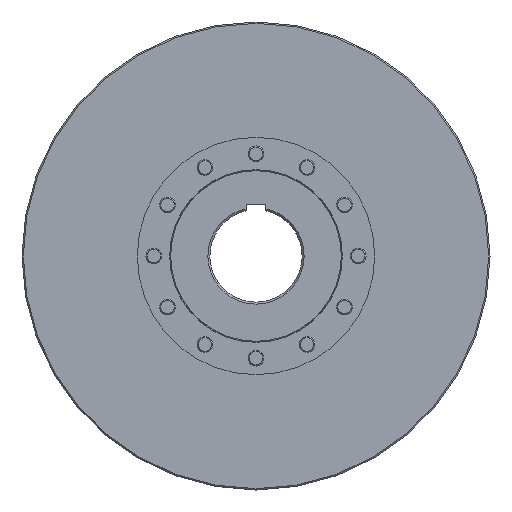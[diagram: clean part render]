
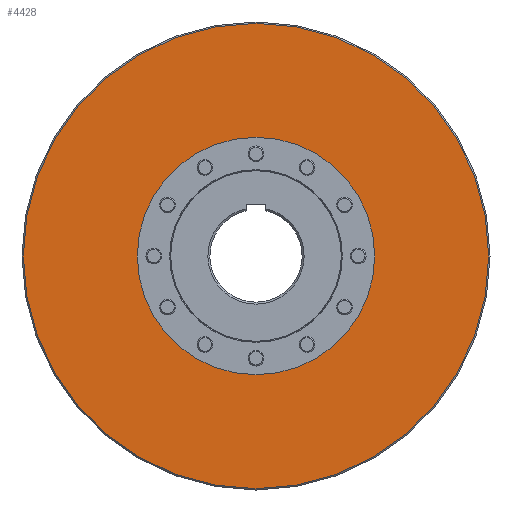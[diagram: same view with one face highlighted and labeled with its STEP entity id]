
A CAD part, left-side view. The second image highlights one B-rep face of the part: STEP entity #4428.
In plain terms, the highlighted planar face has unit normal (-1, 0, 0).
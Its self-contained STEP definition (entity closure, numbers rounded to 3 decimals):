
#720=FACE_BOUND('',#1395,.T.);
#959=FACE_OUTER_BOUND('',#1394,.T.);
#1394=EDGE_LOOP('',(#3109));
#1395=EDGE_LOOP('',(#3110));
#1851=CIRCLE('',#4886,180.);
#1854=CIRCLE('',#4891,353.);
#2093=VERTEX_POINT('',#6934);
#2096=VERTEX_POINT('',#6942);
#2501=EDGE_CURVE('',#2093,#2093,#1851,.T.);
#2504=EDGE_CURVE('',#2096,#2096,#1854,.T.);
#3109=ORIENTED_EDGE('',*,*,#2504,.F.);
#3110=ORIENTED_EDGE('',*,*,#2501,.T.);
#3872=PLANE('',#4890);
#4428=ADVANCED_FACE('',(#959,#720),#3872,.F.);
#4886=AXIS2_PLACEMENT_3D('',#6935,#5691,#5692);
#4890=AXIS2_PLACEMENT_3D('',#6941,#5699,#5700);
#4891=AXIS2_PLACEMENT_3D('',#6943,#5701,#5702);
#5691=DIRECTION('center_axis',(1.,0.,0.));
#5692=DIRECTION('ref_axis',(0.,-1.,0.));
#5699=DIRECTION('center_axis',(1.,0.,0.));
#5700=DIRECTION('ref_axis',(0.,1.,0.));
#5701=DIRECTION('center_axis',(1.,0.,0.));
#5702=DIRECTION('ref_axis',(0.,-1.,0.));
#6934=CARTESIAN_POINT('',(-123.75,180.,0.));
#6935=CARTESIAN_POINT('Origin',(-123.75,0.,
0.));
#6941=CARTESIAN_POINT('Origin',(-123.75,640.121,0.));
#6942=CARTESIAN_POINT('',(-123.75,353.,0.));
#6943=CARTESIAN_POINT('Origin',(-123.75,0.,
0.));
